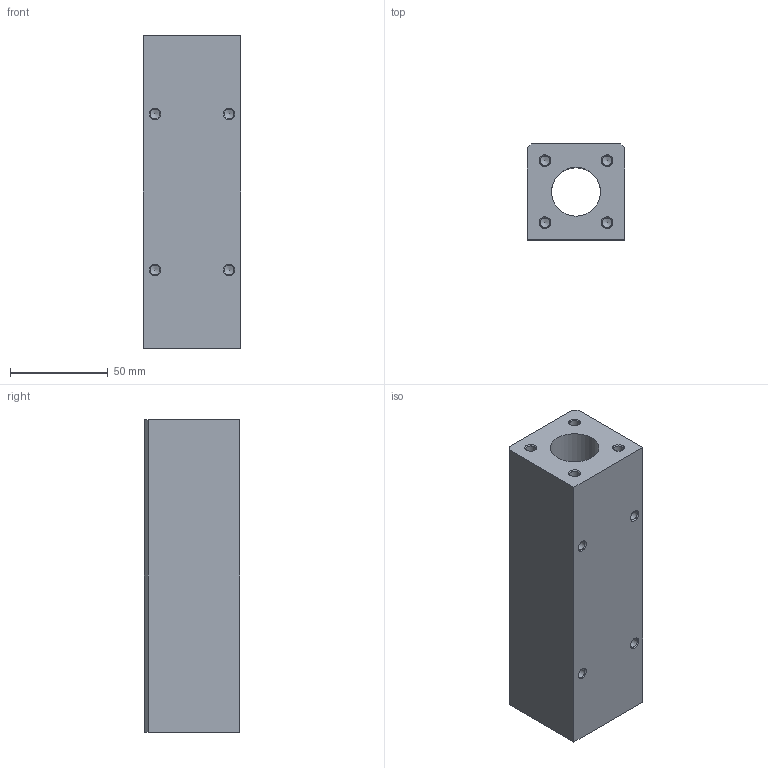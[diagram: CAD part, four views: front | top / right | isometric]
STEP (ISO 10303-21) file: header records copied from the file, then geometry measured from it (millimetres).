
FILE_DESCRIPTION( ( 'STEP AP214' ), '1' );
FILE_NAME( 'U:/Etudes/Top Solid/BIBLIO 3D AVM/STEP/PNEUMATIQUE/GUIDAGES/Accessoires/Paliers/513675_.step', '2005-05-04T12:45:00', ( ' ' ), ( ' ' ), 'XStep 1.0', ' ', ' ' );
FILE_SCHEMA( ( 'automotive_design' ) );
Length unit declared in the file: metre
Products named in the file (1): 1
Bounding box: 50 x 49 x 160 mm (x, y, z)
Volume: 310493.8 mm3; surface area: 49684.8 mm2
Topology: 1 solids, 1 shells, 65 faces, 141 edges, 94 vertices
Faces by surface type: cylinder 25, plane 24, cone 16
Full cylindrical faces by diameter (mm): 4.918 x16, 6.1 x8, 25 x1
Entity records: 1944 total; most frequent: DIRECTION 266, CARTESIAN_POINT 220, ORIENTED_EDGE 152, AXIS2_PLACEMENT_3D 124, EDGE_LOOP 124, FACE_OUTER_BOUND 90, VERTEX_POINT 78, EDGE_CURVE 76
